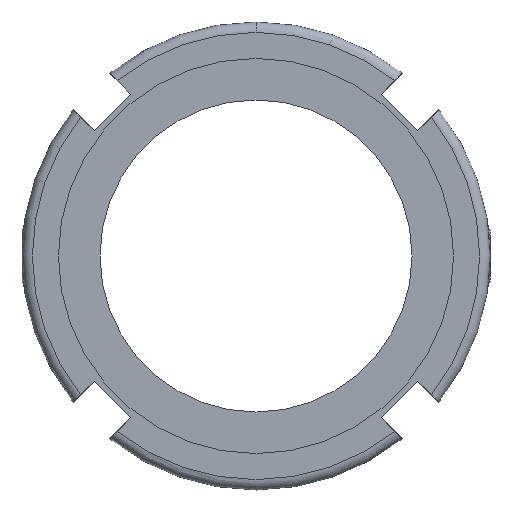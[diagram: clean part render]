
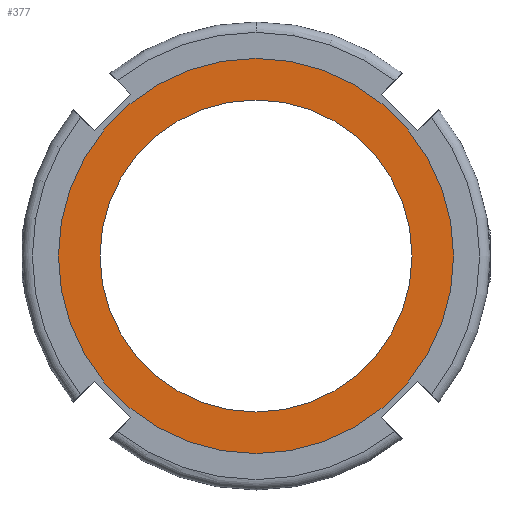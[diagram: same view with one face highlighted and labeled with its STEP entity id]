
A CAD part, left-side view. The second image highlights one B-rep face of the part: STEP entity #377.
In plain terms, the highlighted planar face has unit normal (-1, 0, 0).
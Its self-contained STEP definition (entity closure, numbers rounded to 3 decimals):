
#85 = PLANE ( 'NONE',  #1808 ) ;
#107 = VERTEX_POINT ( 'NONE', #2126 ) ;
#171 = VERTEX_POINT ( 'NONE', #404 ) ;
#179 = DIRECTION ( 'NONE',  ( 0., 0., 1. ) ) ;
#229 = FACE_BOUND ( 'NONE', #700, .T. ) ;
#240 = DIRECTION ( 'NONE',  ( 0., 0., 1. ) ) ;
#289 = CIRCLE ( 'NONE', #1893, 19. ) ;
#377 = ADVANCED_FACE ( 'NONE', ( #229, #546 ), #85, .F. ) ;
#404 = CARTESIAN_POINT ( 'NONE',  ( -12., 0., -15. ) ) ;
#545 = AXIS2_PLACEMENT_3D ( 'NONE', #1386, #2474, #2274 ) ;
#546 = FACE_OUTER_BOUND ( 'NONE', #2506, .T. ) ;
#555 = CARTESIAN_POINT ( 'NONE',  ( -12., 0., -19. ) ) ;
#642 = ORIENTED_EDGE ( 'NONE', *, *, #2529, .F. ) ;
#669 = CARTESIAN_POINT ( 'NONE',  ( -12., 0., 0. ) ) ;
#700 = EDGE_LOOP ( 'NONE', ( #642, #1921 ) ) ;
#734 = ORIENTED_EDGE ( 'NONE', *, *, #2820, .T. ) ;
#775 = CIRCLE ( 'NONE', #2526, 15. ) ;
#822 = EDGE_CURVE ( 'NONE', #1398, #107, #1760, .T. ) ;
#945 = VERTEX_POINT ( 'NONE', #1003 ) ;
#991 = DIRECTION ( 'NONE',  ( 1., 0., 0. ) ) ;
#1003 = CARTESIAN_POINT ( 'NONE',  ( -12., 0., 15. ) ) ;
#1386 = CARTESIAN_POINT ( 'NONE',  ( -12., 0., 0. ) ) ;
#1398 = VERTEX_POINT ( 'NONE', #555 ) ;
#1416 = AXIS2_PLACEMENT_3D ( 'NONE', #2584, #1526, #179 ) ;
#1526 = DIRECTION ( 'NONE',  ( -1., 0., 0. ) ) ;
#1573 = DIRECTION ( 'NONE',  ( -1., 0., 0. ) ) ;
#1760 = CIRCLE ( 'NONE', #1416, 19. ) ;
#1808 = AXIS2_PLACEMENT_3D ( 'NONE', #2298, #991, #2700 ) ;
#1851 = ORIENTED_EDGE ( 'NONE', *, *, #822, .T. ) ;
#1893 = AXIS2_PLACEMENT_3D ( 'NONE', #669, #2205, #1998 ) ;
#1921 = ORIENTED_EDGE ( 'NONE', *, *, #1930, .F. ) ;
#1930 = EDGE_CURVE ( 'NONE', #171, #945, #2457, .T. ) ;
#1998 = DIRECTION ( 'NONE',  ( 0., 0., 1. ) ) ;
#2126 = CARTESIAN_POINT ( 'NONE',  ( -12., 0., 19. ) ) ;
#2205 = DIRECTION ( 'NONE',  ( -1., 0., 0. ) ) ;
#2274 = DIRECTION ( 'NONE',  ( 0., 0., 1. ) ) ;
#2298 = CARTESIAN_POINT ( 'NONE',  ( -12., 19., 0. ) ) ;
#2457 = CIRCLE ( 'NONE', #545, 15. ) ;
#2474 = DIRECTION ( 'NONE',  ( -1., 0., 0. ) ) ;
#2506 = EDGE_LOOP ( 'NONE', ( #734, #1851 ) ) ;
#2526 = AXIS2_PLACEMENT_3D ( 'NONE', #2640, #1573, #240 ) ;
#2529 = EDGE_CURVE ( 'NONE', #945, #171, #775, .T. ) ;
#2584 = CARTESIAN_POINT ( 'NONE',  ( -12., 0., 0. ) ) ;
#2640 = CARTESIAN_POINT ( 'NONE',  ( -12., 0., 0. ) ) ;
#2700 = DIRECTION ( 'NONE',  ( 0., 0., -1. ) ) ;
#2820 = EDGE_CURVE ( 'NONE', #107, #1398, #289, .T. ) ;
